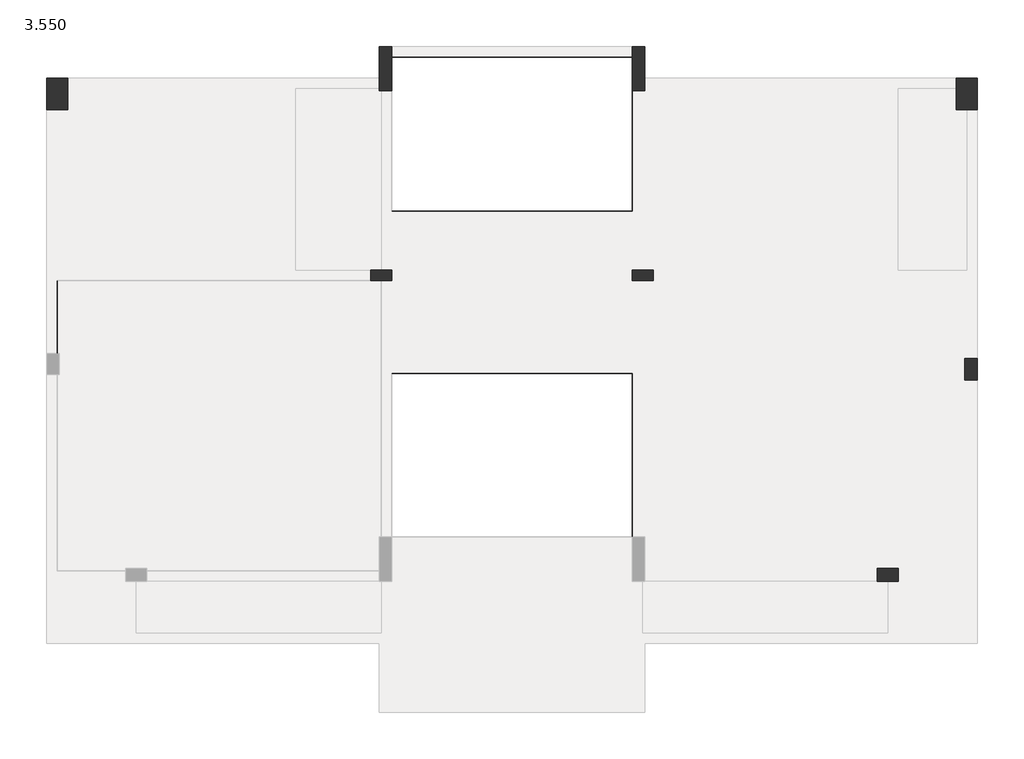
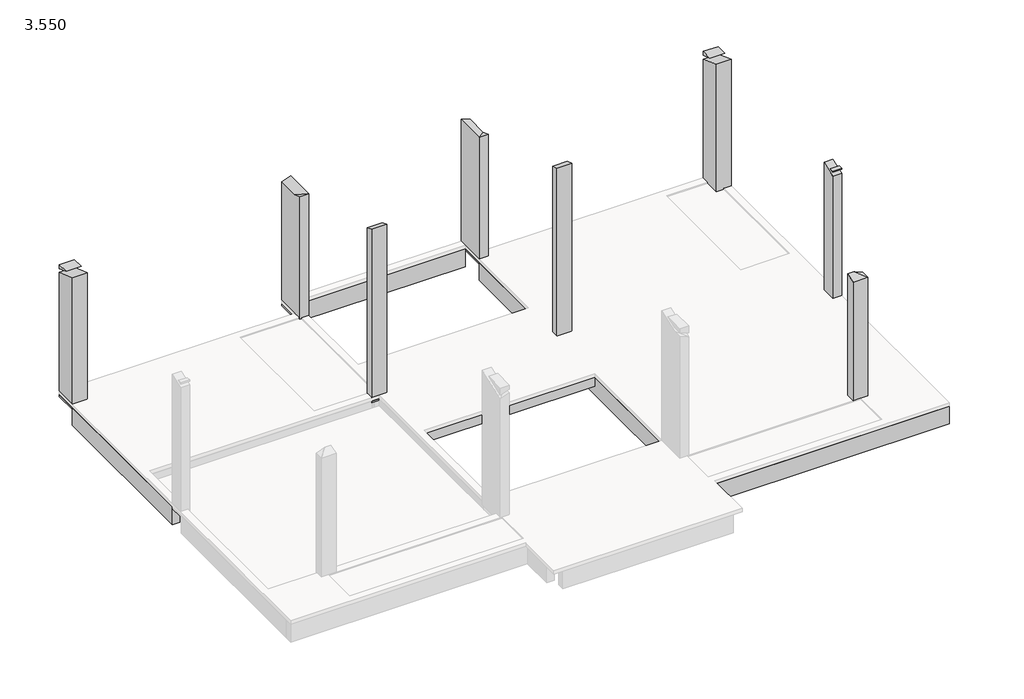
# One storey, part 2 of 2: 18 beams, 8 columns.
"""IFC4 building model written with IfcOpenShell, lengths in millimetres."""

from ifc_helpers import new_model, si_unit, frame, origin, place, context, project, spatial, polyline, outline, extrude, faceted_brep, element, save

model = new_model("IFC4")

# Units and contexts
model_context = context("Model", 3, world=origin())
ifc_project = project(units=[si_unit("LENGTHUNIT", "METRE", prefix="MILLI")], contexts=[model_context])

# Site, building, storey
site = spatial("IfcSite", under=ifc_project)
building = spatial("IfcBuilding", under=site)
storey = spatial("IfcBuildingStorey", under=building, Name="3.550", Elevation=3550.0)

# Beams
placement = place(None, origin())
element("IfcBeam", 1, ObjectType="混凝土 - 矩形梁 : KL1 200X600", at=placement, inside=storey, context=model_context, shape_type="Brep", body=[
    faceted_brep([(-13044.5197818, 2646.0461731, 2950.0), (-7144.5197818, 2646.0461731, 2950.0), (-7144.5197818, 2646.0461731, 3420.0), (-7144.5197818, 2646.0461731, 3450.0), (-8724.5197818, 2646.0461731, 3450.0), (-8924.5197818, 2646.0461731, 3450.0), (-13044.5197818, 2646.0461731, 3450.0), (-13044.5197818, 2846.0461731, 2950.0), (-7144.5197818, 2846.0461731, 2950.0), (-13044.5197818, 2846.0461731, 3400.0), (-13044.5197818, 2846.0461731, 3450.0), (-7144.5197818, 2846.0461731, 3450.0)], [[[0, 1, 2, 3, 4, 5, 6]], [[0, 7, 8, 1]], [[8, 7, 9, 10, 11]], [[7, 0, 6, 10, 9]], [[1, 8, 11, 3, 2]], [[6, 5, 4, 3, 11, 10]]]),
])
element("IfcBeam", 2, ObjectType="混凝土 - 矩形梁 : KL1 200X600", at=placement, inside=storey, context=model_context, shape_type="Brep", body=[
    faceted_brep([(-6904.5197818, 3246.0461731, 2950.0), (-2344.5197818, 3246.0461731, 2950.0), (-2344.5197818, 3246.0461731, 3450.0), (-6904.5197818, 3246.0461731, 3450.0), (-6904.5197818, 3446.0461731, 2950.0), (-2344.5197818, 3446.0461731, 2950.0), (-6904.5197818, 3446.0461731, 3400.0), (-6904.5197818, 3446.0461731, 3450.0), (-2344.5197818, 3446.0461731, 3450.0), (-2344.5197818, 3446.0461731, 3400.0)], [[[0, 1, 2, 3]], [[0, 4, 5, 1]], [[5, 4, 6, 7, 8, 9]], [[4, 0, 3, 7, 6]], [[1, 5, 9, 8, 2]], [[3, 2, 8, 7]]]),
])
element("IfcBeam", 3, ObjectType="混凝土 - 矩形梁 : KL1 200X600", at=placement, inside=storey, context=model_context, shape_type="Brep", body=[
    faceted_brep([(-2104.5197818, 2646.0461731, 2950.0), (3795.4802182, 2646.0461731, 2950.0), (3795.4802182, 2646.0461731, 3420.0), (3795.4802182, 2646.0461731, 3450.0), (2695.4802182, 2646.0461731, 3450.0), (2495.4802182, 2646.0461731, 3450.0), (-2104.5197818, 2646.0461731, 3450.0), (3795.4802182, 2846.0461731, 2950.0), (-2104.5197818, 2846.0461731, 2950.0), (-2104.5197818, 2846.0461731, 3450.0), (3795.4802182, 2846.0461731, 3450.0), (3795.4802182, 2846.0461731, 3400.0)], [[[0, 1, 2, 3, 4, 5, 6]], [[7, 1, 0, 8]], [[7, 8, 9, 10, 11]], [[1, 7, 11, 10, 3, 2]], [[8, 0, 6, 9]], [[4, 3, 10, 9, 6, 5]]]),
])
element("IfcBeam", 4, ObjectType="混凝土 - 矩形梁 : KL1 200X600", at=placement, inside=storey, context=model_context, shape_type="Brep", body=[
    faceted_brep([(-6904.5197818, -993.9538269, 2950.0), (-2344.5197818, -993.9538269, 2950.0), (-2344.5197818, -993.9538269, 3400.0), (-2344.5197818, -993.9538269, 3450.0), (-6904.5197818, -993.9538269, 3450.0), (-6904.5197818, -993.9538269, 3400.0), (-2344.5197818, -793.9538269, 2950.0), (-6904.5197818, -793.9538269, 2950.0), (-6904.5197818, -793.9538269, 3400.0), (-6904.5197818, -793.9538269, 3450.0), (-2344.5197818, -793.9538269, 3450.0), (-2344.5197818, -793.9538269, 3400.0)], [[[0, 1, 2, 3, 4, 5]], [[6, 1, 0, 7]], [[6, 7, 8, 9, 10, 11]], [[7, 0, 5, 4, 9, 8]], [[1, 6, 11, 10, 3, 2]], [[4, 3, 10, 9]]]),
])
element("IfcBeam", 5, ObjectType="混凝土 - 矩形梁 : KL1 200X600", at=placement, inside=storey, context=model_context, shape_type="Brep", body=[
    faceted_brep([(2695.4802182, -993.9538269, 2950.0), (2695.4802182, -993.9538269, 3200.0), (2495.4802182, -993.9538269, 3200.0), (2495.4802182, -993.9538269, 3450.0), (-624.5197818, -993.9538269, 3450.0), (-824.5197818, -993.9538269, 3450.0), (-1944.5197818, -993.9538269, 3450.0), (-1944.5197818, -993.9538269, 3400.0), (-1944.5197818, -993.9538269, 2950.0), (2695.4802182, -793.9538269, 2950.0), (-1944.5197818, -793.9538269, 2950.0), (2695.4802182, -793.9538269, 3200.0), (-1944.5197818, -793.9538269, 3400.0), (-1944.5197818, -793.9538269, 3450.0), (2495.4802182, -793.9538269, 3450.0), (2495.4802182, -793.9538269, 3200.0)], [[[0, 1, 2, 3, 4, 5, 6, 7, 8]], [[9, 0, 8, 10]], [[11, 9, 10, 12, 13, 14, 15]], [[0, 9, 11, 1]], [[2, 15, 14, 3]], [[15, 2, 1, 11]], [[10, 8, 7, 6, 13, 12]], [[6, 5, 4, 3, 14, 13]]]),
])
element("IfcBeam", 6, ObjectType="混凝土 - 矩形梁 : KL1 200X600", at=placement, inside=storey, context=model_context, shape_type="Brep", body=[
    faceted_brep([(2695.4802182, -993.9538269, 2950.0), (3995.4802182, -993.9538269, 2950.0), (3995.4802182, -993.9538269, 3450.0), (2695.4802182, -993.9538269, 3450.0), (2695.4802182, -993.9538269, 3200.0), (2695.4802182, -793.9538269, 2950.0), (3995.4802182, -793.9538269, 2950.0), (2695.4802182, -793.9538269, 3200.0), (2695.4802182, -793.9538269, 3420.0), (2695.4802182, -793.9538269, 3450.0), (3995.4802182, -793.9538269, 3450.0), (3995.4802182, -793.9538269, 3420.0)], [[[0, 1, 2, 3, 4]], [[0, 5, 6, 1]], [[6, 5, 7, 8, 9, 10, 11]], [[5, 0, 4, 3, 9, 8, 7]], [[1, 6, 11, 10, 2]], [[3, 2, 10, 9]]]),
])
element("IfcBeam", 7, ObjectType="混凝土 - 矩形梁 : KL1 200X600", at=placement, inside=storey, context=model_context, shape_type="Brep", body=[
    faceted_brep([(-2104.5197818, -6693.9538269, 2950.0), (2295.4802182, -6693.9538269, 2950.0), (2295.4802182, -6693.9538269, 3400.0), (2295.4802182, -6693.9538269, 3420.0), (2295.4802182, -6693.9538269, 3450.0), (-2104.5197818, -6693.9538269, 3450.0), (-2104.5197818, -6693.9538269, 3420.0), (-2104.5197818, -6693.9538269, 3400.0), (2295.4802182, -6493.9538269, 2950.0), (-2104.5197818, -6493.9538269, 2950.0), (-2104.5197818, -6493.9538269, 3450.0), (1375.4802182, -6493.9538269, 3450.0), (1575.4802182, -6493.9538269, 3450.0), (2295.4802182, -6493.9538269, 3450.0), (2295.4802182, -6493.9538269, 3400.0)], [[[0, 1, 2, 3, 4, 5, 6, 7]], [[8, 1, 0, 9]], [[8, 9, 10, 11, 12, 13, 14]], [[1, 8, 14, 13, 4, 3, 2]], [[9, 0, 7, 6, 5, 10]], [[5, 4, 13, 12, 11, 10]]]),
    faceted_brep([(3995.4802182, -6693.9538269, 2950.0), (3995.4802182, -6493.9538269, 2950.0), (3995.4802182, -6493.9538269, 3450.0), (3995.4802182, -6693.9538269, 3450.0), (2695.4802182, -6493.9538269, 2950.0), (2695.4802182, -6693.9538269, 2950.0), (2695.4802182, -6693.9538269, 3400.0), (2695.4802182, -6693.9538269, 3450.0), (2695.4802182, -6493.9538269, 3450.0), (2695.4802182, -6493.9538269, 3400.0)], [[[0, 1, 2, 3]], [[4, 5, 6, 7, 8, 9]], [[5, 0, 3, 7, 6]], [[1, 0, 5, 4]], [[1, 4, 9, 8, 2]], [[3, 2, 8, 7]]]),
])
element("IfcBeam", 8, ObjectType="混凝土 - 矩形梁 : KL1 200X600", at=placement, inside=storey, context=model_context, shape_type="Brep", body=[
    faceted_brep([(-2144.5197818, -7873.9538269, 2950.0), (4195.4802182, -7873.9538269, 2950.0), (4195.4802182, -7873.9538269, 3450.0), (-2104.5197818, -7873.9538269, 3450.0), (-2144.5197818, -7873.9538269, 3450.0), (-2144.5197818, -7673.9538269, 2950.0), (3995.4802182, -7673.9538269, 2950.0), (4195.4802182, -7673.9538269, 2950.0), (-2144.5197818, -7673.9538269, 3420.0), (-2144.5197818, -7673.9538269, 3450.0), (2495.4802182, -7673.9538269, 3450.0), (2695.4802182, -7673.9538269, 3450.0), (3995.4802182, -7673.9538269, 3450.0), (4195.4802182, -7673.9538269, 3450.0)], [[[0, 1, 2, 3, 4]], [[0, 5, 6, 7, 1]], [[7, 6, 5, 8, 9, 10, 11, 12, 13]], [[5, 0, 4, 9, 8]], [[1, 7, 13, 2]], [[3, 2, 13, 12, 11, 10, 9, 4]]]),
])
element("IfcBeam", 9, ObjectType="混凝土 - 矩形梁 : KL1 200X600", at=placement, inside=storey, context=model_context, shape_type="Brep", body=[
    faceted_brep([(-13444.5197818, 2246.0461731, 2950.0), (-13444.5197818, -2393.9538269, 2950.0), (-13444.5197818, -2393.9538269, 3400.0), (-13444.5197818, -2373.9538269, 3400.0), (-13444.5197818, -2373.9538269, 3450.0), (-13444.5197818, 2246.0461731, 3450.0), (-13444.5197818, 2246.0461731, 3400.0), (-13244.5197818, -2393.9538269, 2950.0), (-13244.5197818, 2246.0461731, 2950.0), (-13244.5197818, -793.9538269, 2950.0), (-13244.5197818, -993.9538269, 2950.0), (-13244.5197818, 2246.0461731, 3450.0), (-13244.5197818, -793.9538269, 3450.0), (-13244.5197818, -993.9538269, 3450.0), (-13244.5197818, -2373.9538269, 3450.0), (-13244.5197818, -2373.9538269, 3400.0), (-13244.5197818, -2393.9538269, 3400.0), (-13244.5197818, -2393.9538269, 3250.0), (-13244.5197818, -2393.9538269, 3090.0)], [[[0, 1, 2, 3, 4, 5, 6]], [[7, 1, 0, 8, 9, 10]], [[7, 10, 9, 8, 11, 12, 13, 14, 15, 16, 17, 18]], [[1, 7, 18, 17, 16, 2]], [[8, 0, 6, 5, 11]], [[15, 3, 2, 16]], [[3, 15, 14, 4]], [[5, 4, 14, 13, 12, 11]]]),
])
element("IfcBeam", 10, ObjectType="混凝土 - 矩形梁 : KL1 200X600", at=placement, inside=storey, context=model_context, shape_type="Brep", body=[
    faceted_brep([(-2144.5197818, -5853.9538269, 2950.0), (-2144.5197818, -993.9538269, 2950.0), (-2144.5197818, -993.9538269, 3400.0), (-2144.5197818, -993.9538269, 3450.0), (-2144.5197818, -2553.9538269, 3450.0), (-2144.5197818, -2753.9538269, 3450.0), (-2144.5197818, -5853.9538269, 3450.0), (-2344.5197818, -5853.9538269, 2950.0), (-2344.5197818, -993.9538269, 2950.0), (-2344.5197818, -5853.9538269, 3400.0), (-2344.5197818, -5853.9538269, 3450.0), (-2344.5197818, -2753.9538269, 3450.0), (-2344.5197818, -2553.9538269, 3450.0), (-2344.5197818, -993.9538269, 3450.0), (-2344.5197818, -993.9538269, 3400.0)], [[[0, 1, 2, 3, 4, 5, 6]], [[7, 8, 1, 0]], [[8, 7, 9, 10, 11, 12, 13, 14]], [[7, 0, 6, 10, 9]], [[1, 8, 14, 13, 3, 2]], [[6, 5, 4, 3, 13, 12, 11, 10]]]),
    faceted_brep([(-2344.5197818, -793.9538269, 2950.0), (-2144.5197818, -793.9538269, 2950.0), (-2144.5197818, -793.9538269, 3400.0), (-2144.5197818, -793.9538269, 3450.0), (-2344.5197818, -793.9538269, 3450.0), (-2344.5197818, -793.9538269, 3400.0), (-2144.5197818, 2606.0461731, 2950.0), (-2144.5197818, 2606.0461731, 3450.0), (-2344.5197818, 2606.0461731, 2950.0), (-2344.5197818, 126.0461731, 3450.0), (-2344.5197818, 326.0461731, 3450.0), (-2344.5197818, 2606.0461731, 3450.0), (-2344.5197818, 2606.0461731, 3400.0)], [[[0, 1, 2, 3, 4, 5]], [[1, 6, 7, 3, 2]], [[1, 0, 8, 6]], [[8, 0, 5, 4, 9, 10, 11, 12]], [[6, 8, 12, 11, 7]], [[4, 3, 7, 11, 10, 9]]]),
])
element("IfcBeam", 11, ObjectType="混凝土 - 矩形梁 : KL1 200X600", at=placement, inside=storey, context=model_context, shape_type="Brep", body=[
    faceted_brep([(3995.4802182, 2246.0461731, 2950.0), (3995.4802182, -793.9538269, 2950.0), (3995.4802182, -993.9538269, 2950.0), (3995.4802182, -2473.9538269, 2950.0), (3995.4802182, -2473.9538269, 3450.0), (3995.4802182, -993.9538269, 3450.0), (3995.4802182, -793.9538269, 3450.0), (3995.4802182, 2246.0461731, 3450.0), (3995.4802182, 2246.0461731, 3420.0), (4195.4802182, -2473.9538269, 2950.0), (4195.4802182, 2246.0461731, 2950.0), (4195.4802182, 2246.0461731, 3400.0), (4195.4802182, 2246.0461731, 3450.0), (4195.4802182, -2473.9538269, 3450.0), (4195.4802182, -2473.9538269, 3400.0)], [[[0, 1, 2, 3, 4, 5, 6, 7, 8]], [[9, 3, 2, 1, 0, 10]], [[9, 10, 11, 12, 13, 14]], [[3, 9, 14, 13, 4]], [[10, 0, 8, 7, 12, 11]], [[6, 5, 4, 13, 12, 7]]]),
])
element("IfcBeam", 12, ObjectType="混凝土 - 矩形梁 : KL1 200X600", at=placement, inside=storey, context=model_context, shape_type="Brep", body=[
    faceted_brep([(3995.4802182, -2873.9538269, 2950.0), (3995.4802182, -6493.9538269, 2950.0), (3995.4802182, -6693.9538269, 2950.0), (3995.4802182, -7673.9538269, 2950.0), (3995.4802182, -7673.9538269, 3450.0), (3995.4802182, -6693.9538269, 3450.0), (3995.4802182, -6493.9538269, 3450.0), (3995.4802182, -2873.9538269, 3450.0), (4195.4802182, -7673.9538269, 2950.0), (4195.4802182, -2873.9538269, 2950.0), (4195.4802182, -2873.9538269, 3400.0), (4195.4802182, -2873.9538269, 3450.0), (4195.4802182, -7673.9538269, 3450.0)], [[[0, 1, 2, 3, 4, 5, 6, 7]], [[8, 3, 2, 1, 0, 9]], [[8, 9, 10, 11, 12]], [[3, 8, 12, 4]], [[9, 0, 7, 11, 10]], [[7, 6, 5, 4, 12, 11]]]),
])
element("IfcBeam", 13, ObjectType="混凝土 - 矩形梁 : KL2 200X350", at=placement, inside=storey, context=model_context, shape_type="SweptSolid", body=[
    extrude(outline(polyline([(-2344.5197818, 326.0461731), (-2344.5197818, 126.0461731), (-6904.5197818, 126.0461731), (-6904.5197818, 326.0461731), (-2344.5197818, 326.0461731)])), frame((0.0, 0.0, 3200.0), z_axis=(0.0, 0.0, 1.0), x_axis=(1.0, 0.0, 0.0)), (0.0, 0.0, 1.0), 250.0),
])
element("IfcBeam", 14, ObjectType="混凝土 - 矩形梁 : KL2 200X350", at=placement, inside=storey, context=model_context, shape_type="Brep", body=[
    faceted_brep([(3955.4802182, -2553.9538269, 3200.0), (2695.4802182, -2553.9538269, 3200.0), (2495.4802182, -2553.9538269, 3200.0), (-624.5197818, -2553.9538269, 3200.0), (-824.5197818, -2553.9538269, 3200.0), (-2144.5197818, -2553.9538269, 3200.0), (-2144.5197818, -2553.9538269, 3450.0), (-824.5197818, -2553.9538269, 3450.0), (-624.5197818, -2553.9538269, 3450.0), (2495.4802182, -2553.9538269, 3450.0), (2695.4802182, -2553.9538269, 3450.0), (3955.4802182, -2553.9538269, 3450.0), (-2144.5197818, -2753.9538269, 3200.0), (3955.4802182, -2753.9538269, 3200.0), (2695.4802182, -2753.9538269, 3200.0), (2495.4802182, -2753.9538269, 3200.0), (1575.4802182, -2753.9538269, 3200.0), (1375.4802182, -2753.9538269, 3200.0), (3955.4802182, -2753.9538269, 3450.0), (2695.4802182, -2753.9538269, 3450.0), (2495.4802182, -2753.9538269, 3450.0), (1575.4802182, -2753.9538269, 3450.0), (1375.4802182, -2753.9538269, 3450.0), (-2144.5197818, -2753.9538269, 3450.0)], [[[0, 1, 2, 3, 4, 5, 6, 7, 8, 9, 10, 11]], [[12, 5, 4, 3, 2, 1, 0, 13, 14, 15, 16, 17]], [[12, 17, 16, 15, 14, 13, 18, 19, 20, 21, 22, 23]], [[5, 12, 23, 6]], [[13, 0, 11, 18]], [[11, 10, 9, 8, 7, 6, 23, 22, 21, 20, 19, 18]]]),
    faceted_brep([(-2344.5197818, -2753.9538269, 3200.0), (-2344.5197818, -2553.9538269, 3200.0), (-2344.5197818, -2553.9538269, 3450.0), (-2344.5197818, -2753.9538269, 3450.0), (-6904.5197818, -2553.9538269, 3200.0), (-6904.5197818, -2553.9538269, 3450.0), (-6904.5197818, -2753.9538269, 3200.0), (-6904.5197818, -2753.9538269, 3450.0)], [[[0, 1, 2, 3]], [[1, 4, 5, 2]], [[1, 0, 6, 4]], [[6, 0, 3, 7]], [[4, 6, 7, 5]], [[3, 2, 5, 7]]]),
])
element("IfcBeam", 15, ObjectType="混凝土 - 矩形梁 : KL2 200X350", at=placement, inside=storey, context=model_context, shape_type="Brep", body=[
    faceted_brep([(-8924.5197818, 2646.0461731, 3200.0), (-8924.5197818, -793.9538269, 3200.0), (-8924.5197818, -793.9538269, 3450.0), (-8924.5197818, 2646.0461731, 3450.0), (-8724.5197818, 2646.0461731, 3200.0), (-8724.5197818, -793.9538269, 3200.0), (-8724.5197818, 2646.0461731, 3420.0), (-8724.5197818, 2646.0461731, 3450.0), (-8724.5197818, -793.9538269, 3450.0), (-8724.5197818, -793.9538269, 3420.0)], [[[0, 1, 2, 3]], [[0, 4, 5, 1]], [[5, 4, 6, 7, 8, 9]], [[4, 0, 3, 7, 6]], [[1, 5, 9, 8, 2]], [[3, 2, 8, 7]]]),
])
element("IfcBeam", 16, ObjectType="混凝土 - 矩形梁 : KL2 200X350", at=placement, inside=storey, context=model_context, shape_type="Brep", body=[
    faceted_brep([(2495.4802182, 2646.0461731, 3200.0), (2495.4802182, -793.9538269, 3200.0), (2495.4802182, -993.9538269, 3200.0), (2495.4802182, -2553.9538269, 3200.0), (2495.4802182, -2553.9538269, 3450.0), (2495.4802182, -993.9538269, 3450.0), (2495.4802182, -793.9538269, 3450.0), (2495.4802182, 2646.0461731, 3450.0), (2695.4802182, 2646.0461731, 3200.0), (2695.4802182, -793.9538269, 3200.0), (2695.4802182, -993.9538269, 3200.0), (2695.4802182, -2553.9538269, 3200.0), (2695.4802182, 2646.0461731, 3420.0), (2695.4802182, 2646.0461731, 3450.0), (2695.4802182, -793.9538269, 3450.0), (2695.4802182, -993.9538269, 3450.0), (2695.4802182, -2553.9538269, 3450.0)], [[[0, 1, 2, 3, 4, 5, 6, 7]], [[0, 8, 9, 10, 11, 3, 2, 1]], [[11, 10, 9, 8, 12, 13, 14, 15, 16]], [[8, 0, 7, 13, 12]], [[3, 11, 16, 4]], [[7, 6, 5, 4, 16, 15, 14, 13]]]),
    faceted_brep([(2495.4802182, -7673.9538269, 3200.0), (2695.4802182, -7673.9538269, 3200.0), (2695.4802182, -7673.9538269, 3450.0), (2495.4802182, -7673.9538269, 3450.0), (2495.4802182, -7673.9538269, 3420.0), (2495.4802182, -6693.9538269, 3200.0), (2495.4802182, -6693.9538269, 3450.0), (2495.4802182, -6693.9538269, 3420.0), (2495.4802182, -6693.9538269, 3400.0), (2695.4802182, -6693.9538269, 3200.0), (2695.4802182, -6693.9538269, 3400.0), (2695.4802182, -6693.9538269, 3450.0)], [[[0, 1, 2, 3, 4]], [[5, 0, 4, 3, 6, 7, 8]], [[1, 0, 5, 9]], [[1, 9, 10, 11, 2]], [[9, 5, 8, 7, 6, 11, 10]], [[3, 2, 11, 6]]]),
    faceted_brep([(2695.4802182, -2753.9538269, 3200.0), (2495.4802182, -2753.9538269, 3200.0), (2495.4802182, -2753.9538269, 3450.0), (2695.4802182, -2753.9538269, 3450.0), (2495.4802182, -6453.9538269, 3200.0), (2495.4802182, -6453.9538269, 3400.0), (2495.4802182, -6453.9538269, 3450.0), (2695.4802182, -6453.9538269, 3200.0), (2695.4802182, -6453.9538269, 3450.0), (2695.4802182, -6453.9538269, 3400.0)], [[[0, 1, 2, 3]], [[1, 4, 5, 6, 2]], [[1, 0, 7, 4]], [[7, 0, 3, 8, 9]], [[4, 7, 9, 8, 6, 5]], [[3, 2, 6, 8]]]),
])
element("IfcBeam", 17, ObjectType="混凝土 - 矩形梁 : KL2 200X350", at=placement, inside=storey, context=model_context, shape_type="SweptSolid", body=[
    extrude(outline(polyline([(1375.4802182, -2753.9538269), (1575.4802182, -2753.9538269), (1575.4802182, -6493.9538269), (1375.4802182, -6493.9538269), (1375.4802182, -2753.9538269)])), frame((0.0, 0.0, 3200.0), z_axis=(0.0, 0.0, 1.0), x_axis=(1.0, 0.0, 0.0)), (0.0, 0.0, 1.0), 250.0),
])
element("IfcBeam", 18, ObjectType="混凝土 - 矩形梁 : KL2 200X350", at=placement, inside=storey, context=model_context, shape_type="SweptSolid", body=[
    extrude(outline(polyline([(-824.5197818, -993.9538269), (-624.5197818, -993.9538269), (-624.5197818, -2553.9538269), (-824.5197818, -2553.9538269), (-824.5197818, -993.9538269)])), frame((0.0, 0.0, 3200.0), z_axis=(0.0, 0.0, 1.0), x_axis=(1.0, 0.0, 0.0)), (0.0, 0.0, 1.0), 250.0),
])

# Columns
element("IfcColumn", 19, ObjectType="混凝土 - 矩形 - 柱 : KZ1  200X400", at=placement, inside=storey, context=model_context, shape_type="Brep", body=[
    faceted_brep([(-7304.5197818, -793.9538269, 3400.0), (-6904.5197818, -793.9538269, 3400.0), (-6904.5197818, -993.9538269, 3400.0), (-7304.5197818, -993.9538269, 3400.0), (-6904.5197818, -793.9538269, 3450.0), (-7104.5197818, -793.9538269, 3450.0), (-7304.5197818, -793.9538269, 3450.0), (-7304.5197818, -993.9538269, 3450.0), (-7104.5197818, -993.9538269, 3450.0), (-6904.5197818, -993.9538269, 3450.0), (-7304.5197818, -793.9538269, 3420.0)], [[[0, 1, 2, 3]], [[4, 5, 6, 7, 8, 9]], [[1, 0, 10, 6, 5, 4]], [[2, 1, 4, 9]], [[3, 2, 9, 8, 7]], [[0, 3, 7, 6, 10]]]),
    faceted_brep([(-6904.5197818, -793.9538269, 3550.0), (-7104.5197818, -793.9538269, 3550.0), (-7304.5197818, -793.9538269, 3550.0), (-7304.5197818, -793.9538269, 8237.295858), (-6904.5197818, -793.9538269, 8237.295858), (-6904.5197818, -793.9538269, 7971.2514149), (-6904.5197818, -993.9538269, 8310.0899049), (-6904.5197818, -993.9538269, 8044.0454618), (-6904.5197818, -993.9538269, 3550.0), (-7304.5197818, -993.9538269, 8310.0899049), (-7304.5197818, -993.9538269, 3550.0), (-7104.5197818, -993.9538269, 3550.0)], [[[0, 1, 2, 3, 4, 5]], [[6, 7, 8, 0, 5, 4]], [[8, 7, 6, 9, 10, 11]], [[10, 9, 3, 2]], [[1, 0, 8, 11, 10, 2]], [[4, 3, 9, 6]]]),
])
element("IfcColumn", 20, ObjectType="混凝土 - 矩形 - 柱 : KZ1  200X400", at=placement, inside=storey, context=model_context, shape_type="Brep", body=[
    faceted_brep([(-1944.5197818, -793.9538269, 3400.0), (-1944.5197818, -993.9538269, 3400.0), (-2344.5197818, -993.9538269, 3400.0), (-2344.5197818, -793.9538269, 3400.0), (-1944.5197818, -793.9538269, 3450.0), (-2144.5197818, -793.9538269, 3450.0), (-2344.5197818, -793.9538269, 3450.0), (-2344.5197818, -993.9538269, 3450.0), (-2144.5197818, -993.9538269, 3450.0), (-1944.5197818, -993.9538269, 3450.0)], [[[0, 1, 2, 3]], [[4, 5, 6, 7, 8, 9]], [[0, 3, 6, 5, 4]], [[3, 2, 7, 6]], [[2, 1, 9, 8, 7]], [[1, 0, 4, 9]]]),
    faceted_brep([(-1944.5197818, -793.9538269, 3550.0), (-2344.5197818, -793.9538269, 3550.0), (-2344.5197818, -793.9538269, 7971.2514149), (-2344.5197818, -793.9538269, 8237.295858), (-1944.5197818, -793.9538269, 8237.295858), (-2344.5197818, -993.9538269, 3550.0), (-2344.5197818, -993.9538269, 8044.0454618), (-2344.5197818, -993.9538269, 8310.0899049), (-1944.5197818, -993.9538269, 3550.0), (-1944.5197818, -993.9538269, 8310.0899049)], [[[0, 1, 2, 3, 4]], [[5, 6, 7, 3, 2, 1]], [[7, 6, 5, 8, 9]], [[9, 8, 0, 4]], [[1, 0, 8, 5]], [[4, 3, 7, 9]]]),
])
element("IfcColumn", 21, ObjectType="混凝土 - 矩形 - 柱 : KZ2  240X400", at=placement, inside=storey, context=model_context, shape_type="Brep", body=[
    faceted_brep([(3955.4802182, -2473.9538269, 3400.0), (4195.4802182, -2473.9538269, 3400.0), (4195.4802182, -2873.9538269, 3400.0), (3955.4802182, -2873.9538269, 3400.0), (3955.4802182, -2473.9538269, 3450.0), (3955.4802182, -2553.9538269, 3450.0), (3955.4802182, -2753.9538269, 3450.0), (3955.4802182, -2873.9538269, 3450.0), (3995.4802182, -2873.9538269, 3450.0), (4195.4802182, -2873.9538269, 3450.0), (4195.4802182, -2473.9538269, 3450.0), (3995.4802182, -2473.9538269, 3450.0)], [[[0, 1, 2, 3]], [[4, 5, 6, 7, 8, 9, 10, 11]], [[0, 3, 7, 6, 5, 4]], [[3, 2, 9, 8, 7]], [[2, 1, 10, 9]], [[1, 0, 4, 11, 10]]]),
    faceted_brep([(3955.4802182, -2473.9538269, 7159.9439646), (3955.4802182, -2473.9538269, 3550.0), (3955.4802182, -2873.9538269, 3550.0), (3955.4802182, -2873.9538269, 7014.3558709), (4195.4802182, -2473.9538269, 7159.9439646), (4195.4802182, -2473.9538269, 6893.8995215), (4195.4802182, -2473.9538269, 3550.0), (4195.4802182, -2873.9538269, 3550.0), (4195.4802182, -2873.9538269, 7014.3558709)], [[[0, 1, 2, 3]], [[4, 5, 6, 1, 0]], [[2, 1, 6, 7]], [[0, 3, 8, 4]], [[2, 7, 8, 3]], [[6, 5, 4, 8, 7]]]),
    faceted_brep([(4195.4802182, -2873.9538269, 7159.9439646), (3955.4802182, -2873.9538269, 7159.9439646), (3955.4802182, -2873.9538269, 7120.7736481), (4195.4802182, -2873.9538269, 7120.7736481), (4195.4802182, -2766.3342669, 7159.9439646), (3955.4802182, -2766.3342669, 7159.9439646)], [[[0, 1, 2, 3]], [[0, 3, 4]], [[1, 0, 4, 5]], [[2, 5, 4, 3]], [[2, 1, 5]]]),
])
element("IfcColumn", 22, ObjectType="混凝土 - 矩形 - 柱 : KZ2  240X400", at=placement, inside=storey, context=model_context, shape_type="Brep", body=[
    faceted_brep([(2695.4802182, -6453.9538269, 3400.0), (2695.4802182, -6693.9538269, 3400.0), (2295.4802182, -6693.9538269, 3400.0), (2295.4802182, -6453.9538269, 3400.0), (2695.4802182, -6453.9538269, 3450.0), (2495.4802182, -6453.9538269, 3450.0), (2295.4802182, -6453.9538269, 3450.0), (2295.4802182, -6493.9538269, 3450.0), (2295.4802182, -6693.9538269, 3450.0), (2495.4802182, -6693.9538269, 3450.0), (2695.4802182, -6693.9538269, 3450.0), (2695.4802182, -6493.9538269, 3450.0), (2295.4802182, -6693.9538269, 3420.0)], [[[0, 1, 2, 3]], [[4, 5, 6, 7, 8, 9, 10, 11]], [[0, 3, 6, 5, 4]], [[3, 2, 12, 8, 7, 6]], [[2, 1, 10, 9, 8, 12]], [[1, 0, 4, 11, 10]]]),
    faceted_brep([(2295.4802182, -6453.9538269, 3550.0), (2295.4802182, -6453.9538269, 6999.7970615), (2455.4802182, -6453.9538269, 6999.7970615), (2695.4802182, -6453.9538269, 6912.4442053), (2695.4802182, -6453.9538269, 3550.0), (2295.4802182, -6693.9538269, 3550.0), (2295.4802182, -6693.9538269, 6912.4442053), (2495.4802182, -6693.9538269, 3550.0), (2695.4802182, -6693.9538269, 3550.0), (2695.4802182, -6693.9538269, 6912.4442053)], [[[0, 1, 2, 3, 4]], [[1, 0, 5, 6]], [[5, 7, 8, 9, 6]], [[8, 4, 3, 9]], [[0, 4, 8, 7, 5]], [[2, 9, 3]], [[9, 2, 1, 6]]]),
])
element("IfcColumn", 23, ObjectType="混凝土 - 矩形 - 柱 : KZ3 400X600", at=placement, inside=storey, context=model_context, shape_type="Brep", body=[
    faceted_brep([(-13044.5197818, 2846.0461731, 3400.0), (-13044.5197818, 2246.0461731, 3400.0), (-13444.5197818, 2246.0461731, 3400.0), (-13444.5197818, 2846.0461731, 3400.0), (-13044.5197818, 2246.0461731, 3450.0), (-13044.5197818, 2646.0461731, 3450.0), (-13044.5197818, 2846.0461731, 3450.0), (-13444.5197818, 2846.0461731, 3450.0), (-13444.5197818, 2246.0461731, 3450.0), (-13244.5197818, 2246.0461731, 3450.0)], [[[0, 1, 2, 3]], [[4, 5, 6, 7, 8, 9]], [[1, 0, 6, 5, 4]], [[2, 1, 4, 9, 8]], [[3, 2, 8, 7]], [[0, 3, 7, 6]]]),
    faceted_brep([(-13044.5197818, 2246.0461731, 7130.8263459), (-13044.5197818, 2246.0461731, 3550.0), (-13044.5197818, 2846.0461731, 3550.0), (-13044.5197818, 2846.0461731, 6912.4442053), (-13444.5197818, 2246.0461731, 7130.8263459), (-13444.5197818, 2246.0461731, 3550.0), (-13444.5197818, 2846.0461731, 3550.0), (-13444.5197818, 2846.0461731, 6912.4442053)], [[[0, 1, 2, 3]], [[1, 0, 4, 5]], [[2, 1, 5, 6]], [[0, 3, 7, 4]], [[5, 4, 7, 6]], [[2, 6, 7, 3]]]),
    faceted_brep([(-13444.5197818, 2846.0461731, 7130.8263459), (-13444.5197818, 2846.0461731, 7018.8619826), (-13444.5197818, 2538.4266131, 7130.8263459), (-13044.5197818, 2846.0461731, 7130.8263459), (-13044.5197818, 2846.0461731, 7018.8619826), (-13044.5197818, 2538.4266131, 7130.8263459)], [[[0, 1, 2]], [[0, 3, 4, 1]], [[3, 0, 2, 5]], [[4, 5, 2, 1]], [[4, 3, 5]]]),
])
element("IfcColumn", 24, ObjectType="混凝土 - 矩形 - 柱 : KZ3 400X600", at=placement, inside=storey, context=model_context, shape_type="Brep", body=[
    faceted_brep([(3795.4802182, 2846.0461731, 3400.0), (4195.4802182, 2846.0461731, 3400.0), (4195.4802182, 2246.0461731, 3400.0), (3795.4802182, 2246.0461731, 3400.0), (3795.4802182, 2846.0461731, 3450.0), (3795.4802182, 2646.0461731, 3450.0), (3995.4802182, 2646.0461731, 3450.0), (3995.4802182, 2246.0461731, 3450.0), (4195.4802182, 2246.0461731, 3450.0), (4195.4802182, 2846.0461731, 3450.0), (3995.4802182, 2246.0461731, 3420.0), (3995.4802182, 2646.0461731, 3420.0), (3795.4802182, 2646.0461731, 3420.0), (3795.4802182, 2246.0461731, 3420.0)], [[[0, 1, 2, 3]], [[4, 5, 6, 7, 8, 9]], [[2, 1, 9, 8]], [[1, 0, 4, 9]], [[10, 11, 12, 13]], [[11, 6, 5, 12]], [[6, 11, 10, 7]], [[0, 3, 13, 12, 5, 4]], [[3, 2, 8, 7, 10, 13]]]),
    faceted_brep([(3795.4802182, 2846.0461731, 7130.8263459), (3795.4802182, 2846.0461731, 7018.8619826), (3795.4802182, 2538.4266131, 7130.8263459), (4195.4802182, 2846.0461731, 7018.8619826), (4195.4802182, 2846.0461731, 7130.8263459), (4195.4802182, 2538.4266131, 7130.8263459)], [[[0, 1, 2]], [[3, 4, 5]], [[0, 4, 3, 1]], [[4, 0, 2, 5]], [[2, 1, 3, 5]]]),
    faceted_brep([(4195.4802182, 2246.0461731, 3550.0), (4195.4802182, 2246.0461731, 7130.8263459), (3795.4802182, 2246.0461731, 7130.8263459), (3795.4802182, 2246.0461731, 3520.0), (3995.4802182, 2246.0461731, 3520.0), (3995.4802182, 2246.0461731, 3550.0), (3995.4802182, 2646.0461731, 3550.0), (3795.4802182, 2646.0461731, 3550.0), (3795.4802182, 2846.0461731, 3550.0), (4195.4802182, 2846.0461731, 3550.0), (3995.4802182, 2646.0461731, 3520.0), (3795.4802182, 2646.0461731, 3520.0), (3795.4802182, 2846.0461731, 6912.4442053), (4195.4802182, 2846.0461731, 6912.4442053)], [[[0, 1, 2, 3, 4, 5]], [[6, 7, 8, 9, 0, 5]], [[7, 6, 10, 11]], [[6, 5, 4, 10]], [[3, 11, 10, 4]], [[12, 2, 1, 13]], [[8, 7, 11, 3, 2, 12]], [[1, 0, 9, 13]], [[9, 8, 12, 13]]]),
])
element("IfcColumn", 25, ObjectType="混凝土 - 矩形 - 柱 : KZ4 240X840", at=placement, inside=storey, context=model_context, shape_type="Brep", body=[
    faceted_brep([(-7144.5197818, 2606.0461731, 3400.0), (-7144.5197818, 3446.0461731, 3400.0), (-6904.5197818, 3446.0461731, 3400.0), (-6904.5197818, 2606.0461731, 3400.0), (-7144.5197818, 3446.0461731, 3450.0), (-7144.5197818, 2846.0461731, 3450.0), (-7144.5197818, 2646.0461731, 3450.0), (-7104.5197818, 2646.0461731, 3450.0), (-7104.5197818, 2606.0461731, 3450.0), (-6904.5197818, 2606.0461731, 3450.0), (-6904.5197818, 3246.0461731, 3450.0), (-6904.5197818, 3446.0461731, 3450.0), (-7104.5197818, 2646.0461731, 3420.0), (-7144.5197818, 2646.0461731, 3420.0), (-7144.5197818, 2606.0461731, 3420.0), (-7104.5197818, 2606.0461731, 3420.0)], [[[0, 1, 2, 3]], [[4, 5, 6, 7, 8, 9, 10, 11]], [[2, 1, 4, 11]], [[3, 2, 11, 10, 9]], [[12, 13, 14, 15]], [[7, 12, 15, 8]], [[12, 7, 6, 13]], [[1, 0, 14, 13, 6, 5, 4]], [[0, 3, 9, 8, 15, 14]]]),
    faceted_brep([(-7144.5197818, 3446.0461731, 3550.0), (-7144.5197818, 2846.0461731, 3550.0), (-7144.5197818, 2646.0461731, 3550.0), (-7144.5197818, 2646.0461731, 3520.0), (-7144.5197818, 2606.0461731, 3520.0), (-7144.5197818, 2606.0461731, 6999.7970615), (-7144.5197818, 2846.0461731, 6912.4442053), (-7144.5197818, 3446.0461731, 6912.4442053), (-6904.5197818, 3446.0461731, 6999.7970615), (-6904.5197818, 3446.0461731, 6733.7526184), (-6904.5197818, 3446.0461731, 3550.0), (-6904.5197818, 2606.0461731, 6999.7970615), (-6904.5197818, 2606.0461731, 3550.0), (-6904.5197818, 3246.0461731, 3550.0), (-7104.5197818, 2606.0461731, 3520.0), (-7104.5197818, 2606.0461731, 3550.0), (-7104.5197818, 2646.0461731, 3550.0), (-7104.5197818, 2646.0461731, 3520.0)], [[[0, 1, 2, 3, 4, 5, 6, 7]], [[8, 9, 10, 0, 7]], [[10, 9, 8, 11, 12, 13]], [[12, 11, 5, 4, 14, 15]], [[16, 2, 1, 0, 10, 13, 12, 15]], [[2, 16, 17, 3]], [[16, 15, 14, 17]], [[4, 3, 17, 14]], [[11, 6, 5]], [[6, 11, 8, 7]]]),
])
element("IfcColumn", 26, ObjectType="混凝土 - 矩形 - 柱 : KZ4 240X840", at=placement, inside=storey, context=model_context, shape_type="Brep", body=[
    faceted_brep([(-2104.5197818, 2606.0461731, 3400.0), (-2344.5197818, 2606.0461731, 3400.0), (-2344.5197818, 3446.0461731, 3400.0), (-2104.5197818, 3446.0461731, 3400.0), (-2104.5197818, 2846.0461731, 3450.0), (-2104.5197818, 3446.0461731, 3450.0), (-2344.5197818, 3446.0461731, 3450.0), (-2344.5197818, 3246.0461731, 3450.0), (-2344.5197818, 2606.0461731, 3450.0), (-2144.5197818, 2606.0461731, 3450.0), (-2104.5197818, 2606.0461731, 3450.0), (-2104.5197818, 2646.0461731, 3450.0)], [[[0, 1, 2, 3]], [[4, 5, 6, 7, 8, 9, 10, 11]], [[0, 3, 5, 4, 11, 10]], [[3, 2, 6, 5]], [[2, 1, 8, 7, 6]], [[1, 0, 10, 9, 8]]]),
    faceted_brep([(-2104.5197818, 2606.0461731, 6999.7970615), (-2104.5197818, 2606.0461731, 3550.0), (-2104.5197818, 2846.0461731, 3550.0), (-2104.5197818, 3446.0461731, 3550.0), (-2104.5197818, 3446.0461731, 6912.4442053), (-2104.5197818, 2846.0461731, 6912.4442053), (-2344.5197818, 3446.0461731, 3550.0), (-2344.5197818, 3446.0461731, 6999.7970615), (-2344.5197818, 3246.0461731, 3550.0), (-2344.5197818, 2606.0461731, 3550.0), (-2344.5197818, 2606.0461731, 6999.7970615)], [[[0, 1, 2, 3, 4, 5]], [[6, 7, 4, 3]], [[7, 6, 8, 9, 10]], [[10, 9, 1, 0]], [[3, 2, 1, 9, 8, 6]], [[5, 10, 0]], [[10, 5, 4, 7]]]),
])

save(model, "model.ifc")
